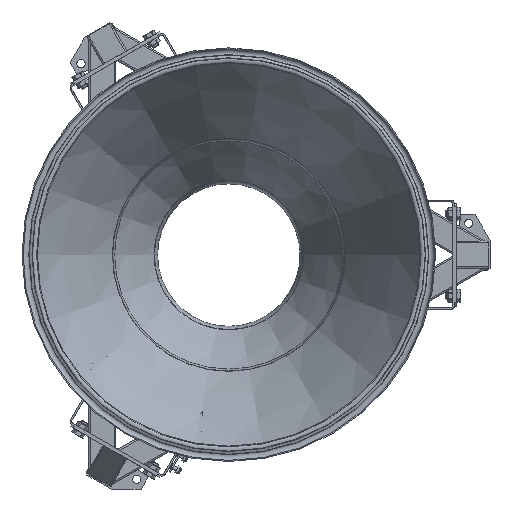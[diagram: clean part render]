
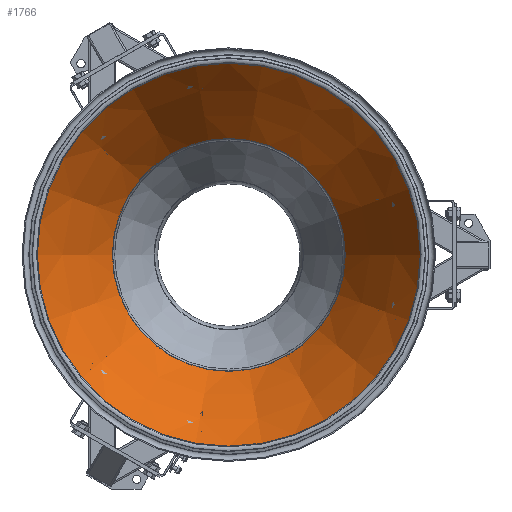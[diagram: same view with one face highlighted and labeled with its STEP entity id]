
A CAD part, top view. The second image highlights one B-rep face of the part: STEP entity #1766.
In plain terms, the highlighted conical face has half-angle 30 degrees and reference radius 280.087 mm.
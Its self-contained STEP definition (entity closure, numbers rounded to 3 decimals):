
#1766 = ADVANCED_FACE( '', ( #4450, #4451 ), #4452, .F. );
#4450 = FACE_BOUND( '', #8478, .T. );
#4451 = FACE_OUTER_BOUND( '', #8479, .T. );
#4452 = CONICAL_SURFACE( '', #8480, 280.087, 0.524 );
#8478 = EDGE_LOOP( '', ( #14652 ) );
#8479 = EDGE_LOOP( '', ( #14653 ) );
#8480 = AXIS2_PLACEMENT_3D( '', #14654, #14655, #14656 );
#14652 = ORIENTED_EDGE( '', *, *, #21406, .T. );
#14653 = ORIENTED_EDGE( '', *, *, #22542, .F. );
#14654 = CARTESIAN_POINT( '', ( 0., 0., 374.375 ) );
#14655 = DIRECTION( '', ( 0., 0., 1. ) );
#14656 = DIRECTION( '', ( 1., 0., 0. ) );
#21406 = EDGE_CURVE( '', #25206, #25206, #25207, .T. );
#22542 = EDGE_CURVE( '', #27173, #27173, #27174, .T. );
#25206 = VERTEX_POINT( '', #30896 );
#25207 = CIRCLE( '', #30897, 169.929 );
#27173 = VERTEX_POINT( '', #34590 );
#27174 = CIRCLE( '', #34591, 280.087 );
#30896 = CARTESIAN_POINT( '', ( -169.929, 0., 183.576 ) );
#30897 = AXIS2_PLACEMENT_3D( '', #41237, #41238, #41239 );
#34590 = CARTESIAN_POINT( '', ( -280.087, 0., 374.375 ) );
#34591 = AXIS2_PLACEMENT_3D( '', #42702, #42703, #42704 );
#41237 = CARTESIAN_POINT( '', ( 0., 0., 183.576 ) );
#41238 = DIRECTION( '', ( 0., 0., -1. ) );
#41239 = DIRECTION( '', ( -1., 0., 0. ) );
#42702 = CARTESIAN_POINT( '', ( 0., 0., 374.375 ) );
#42703 = DIRECTION( '', ( 0., 0., -1. ) );
#42704 = DIRECTION( '', ( -1., 0., 0. ) );
